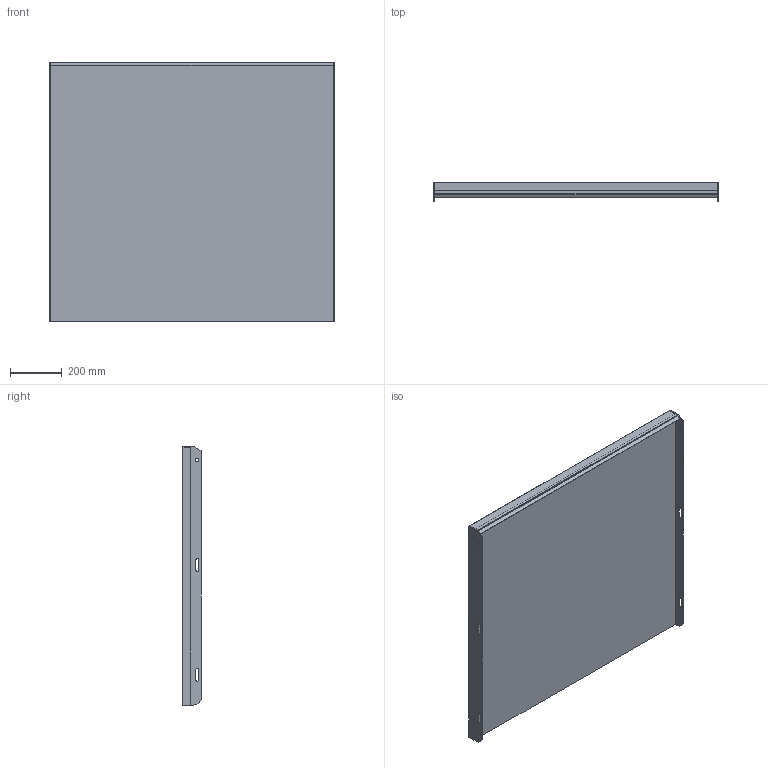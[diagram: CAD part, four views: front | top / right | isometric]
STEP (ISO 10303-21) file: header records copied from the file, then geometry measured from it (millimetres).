
FILE_DESCRIPTION (( 'STEP AP203' ), '1' );
FILE_NAME ('148811101, Plan TH6, 1100x1000, vfz.STEP', '2020-10-21T13:12:43', ( '' ), ( '' ), 'SwSTEP 2.0', 'SolidWorks 2019', '' );
FILE_SCHEMA (( 'CONFIG_CONTROL_DESIGN' ));
Length unit declared in the file: millimetre
Products named in the file (4): SW0000041752; SW0000041787; SW0000041407; 148811101, Plan TH6, 1100x1000, vfz
Assembly tree (4 placements, depth 2):
  148811101, Plan TH6, 1100x1000, vfz
    SW0000041787
    SW0000041407  x2
    SW0000041752
Bounding box: 1100 x 70 x 997 mm (x, y, z)
Volume: 33227748.2 mm3; surface area: 2724622.7 mm2
Topology: 4 solids, 4 shells, 69 faces, 172 edges, 112 vertices
Faces by surface type: plane 49, cylinder 20
Entity records: 1868 total; most frequent: DIRECTION 252, CARTESIAN_POINT 250, ORIENTED_EDGE 236, EDGE_CURVE 118, VECTOR 96, LINE 96, AXIS2_PLACEMENT_3D 78, VERTEX_POINT 76
